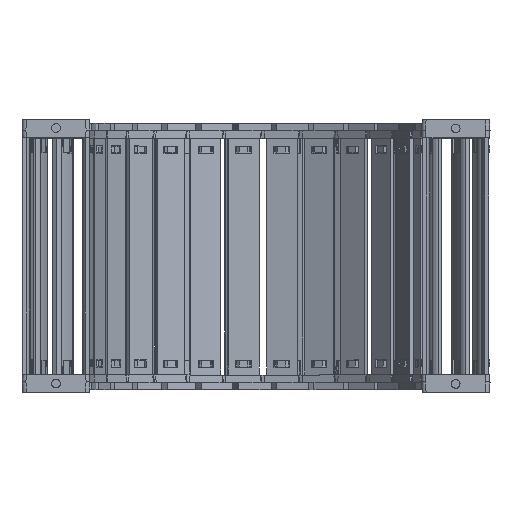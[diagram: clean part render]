
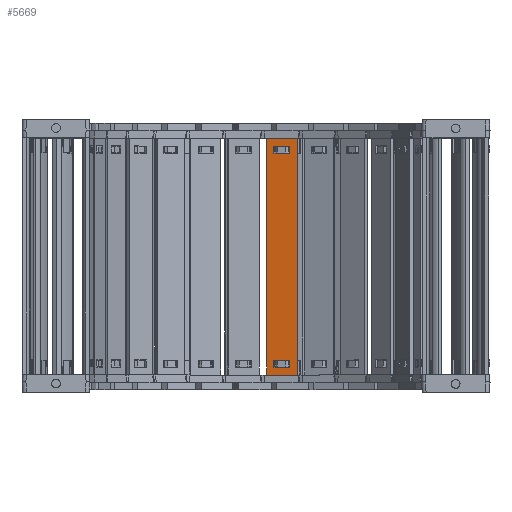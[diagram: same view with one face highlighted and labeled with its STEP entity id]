
A CAD part, top view. The second image highlights one B-rep face of the part: STEP entity #5669.
In plain terms, the highlighted planar face has unit normal (-0.182, 0, 0.983) as drawn and (0, 1, 0) by its records, which use the part's own axes.
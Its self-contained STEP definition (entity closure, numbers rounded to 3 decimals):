
#5089=DIRECTION('',(0.,0.,1.));
#5090=VECTOR('',#5089,15.8);
#5091=CARTESIAN_POINT('',(105.74,1.5,-7.9));
#5092=LINE('',#5091,#5090);
#5093=DIRECTION('',(-1.,0.,0.));
#5094=VECTOR('',#5093,120.5);
#5095=CARTESIAN_POINT('',(105.74,1.5,7.9));
#5096=LINE('',#5095,#5094);
#5097=DIRECTION('',(0.,0.,-1.));
#5098=VECTOR('',#5097,15.8);
#5099=CARTESIAN_POINT('',(-14.76,1.5,7.9));
#5100=LINE('',#5099,#5098);
#5101=DIRECTION('',(1.,0.,0.));
#5102=VECTOR('',#5101,3.648);
#5103=CARTESIAN_POINT('',(98.122,1.5,4.075));
#5104=LINE('',#5103,#5102);
#5105=DIRECTION('',(0.,0.,-1.));
#5106=VECTOR('',#5105,8.15);
#5107=CARTESIAN_POINT('',(101.77,1.5,4.075));
#5108=LINE('',#5107,#5106);
#5109=DIRECTION('',(-1.,0.,0.));
#5110=VECTOR('',#5109,3.648);
#5111=CARTESIAN_POINT('',(101.77,1.5,-4.075));
#5112=LINE('',#5111,#5110);
#5113=DIRECTION('',(0.,0.,-1.));
#5114=VECTOR('',#5113,8.15);
#5115=CARTESIAN_POINT('',(-7.142,1.5,4.075));
#5116=LINE('',#5115,#5114);
#5117=DIRECTION('',(-1.,0.,0.));
#5118=VECTOR('',#5117,3.648);
#5119=CARTESIAN_POINT('',(-7.142,1.5,-4.075));
#5120=LINE('',#5119,#5118);
#5121=DIRECTION('',(0.,0.,1.));
#5122=VECTOR('',#5121,8.15);
#5123=CARTESIAN_POINT('',(-10.79,1.5,-4.075));
#5124=LINE('',#5123,#5122);
#5125=DIRECTION('',(1.,0.,0.));
#5126=VECTOR('',#5125,3.648);
#5127=CARTESIAN_POINT('',(-10.79,1.5,4.075));
#5128=LINE('',#5127,#5126);
#5133=DIRECTION('',(-1.,0.,0.));
#5134=VECTOR('',#5133,120.5);
#5135=CARTESIAN_POINT('',(105.74,1.5,-7.9));
#5136=LINE('',#5135,#5134);
#5254=DIRECTION('',(0.,0.,-1.));
#5255=VECTOR('',#5254,8.15);
#5256=CARTESIAN_POINT('',(98.122,1.5,4.075));
#5257=LINE('',#5256,#5255);
#5439=CARTESIAN_POINT('',(101.77,1.5,4.075));
#5440=VERTEX_POINT('',#5439);
#5441=CARTESIAN_POINT('',(98.122,1.5,4.075));
#5442=VERTEX_POINT('',#5441);
#5483=CARTESIAN_POINT('',(98.122,1.5,-4.075));
#5484=VERTEX_POINT('',#5483);
#5485=CARTESIAN_POINT('',(101.77,1.5,-4.075));
#5486=VERTEX_POINT('',#5485);
#5487=CARTESIAN_POINT('',(105.74,1.5,7.9));
#5489=VERTEX_POINT('',#5487);
#5491=CARTESIAN_POINT('',(105.74,1.5,-7.9));
#5492=VERTEX_POINT('',#5491);
#5515=CARTESIAN_POINT('',(-7.142,1.5,4.075));
#5516=CARTESIAN_POINT('',(-7.142,1.5,-4.075));
#5517=VERTEX_POINT('',#5515);
#5518=VERTEX_POINT('',#5516);
#5519=CARTESIAN_POINT('',(-10.79,1.5,-4.075));
#5520=VERTEX_POINT('',#5519);
#5521=CARTESIAN_POINT('',(-10.79,1.5,4.075));
#5522=VERTEX_POINT('',#5521);
#5523=CARTESIAN_POINT('',(-14.76,1.5,7.9));
#5524=VERTEX_POINT('',#5523);
#5527=CARTESIAN_POINT('',(-14.76,1.5,-7.9));
#5528=VERTEX_POINT('',#5527);
#5638=CARTESIAN_POINT('',(137.48,1.5,10.061));
#5639=DIRECTION('',(0.,-1.,0.));
#5640=DIRECTION('',(0.,0.,-1.));
#5641=AXIS2_PLACEMENT_3D('',#5638,#5639,#5640);
#5642=PLANE('',#5641);
#5643=ORIENTED_EDGE('',*,*,#5577,.T.);
#5644=ORIENTED_EDGE('',*,*,#5603,.T.);
#5645=ORIENTED_EDGE('',*,*,#5616,.T.);
#5647=ORIENTED_EDGE('',*,*,#5646,.F.);
#5648=EDGE_LOOP('',(#5643,#5644,#5645,#5647));
#5649=FACE_OUTER_BOUND('',#5648,.F.);
#5651=ORIENTED_EDGE('',*,*,#5650,.F.);
#5652=ORIENTED_EDGE('',*,*,#5540,.T.);
#5654=ORIENTED_EDGE('',*,*,#5653,.T.);
#5656=ORIENTED_EDGE('',*,*,#5655,.T.);
#5657=EDGE_LOOP('',(#5651,#5652,#5654,#5656));
#5658=FACE_BOUND('',#5657,.F.);
#5660=ORIENTED_EDGE('',*,*,#5659,.T.);
#5662=ORIENTED_EDGE('',*,*,#5661,.T.);
#5664=ORIENTED_EDGE('',*,*,#5663,.T.);
#5666=ORIENTED_EDGE('',*,*,#5665,.T.);
#5667=EDGE_LOOP('',(#5660,#5662,#5664,#5666));
#5668=FACE_BOUND('',#5667,.F.);
#5669=ADVANCED_FACE('',(#5649,#5658,#5668),#5642,.F.);
#5540=EDGE_CURVE('',#5442,#5440,#5104,.T.);
#5577=EDGE_CURVE('',#5492,#5489,#5092,.T.);
#5603=EDGE_CURVE('',#5489,#5524,#5096,.T.);
#5616=EDGE_CURVE('',#5524,#5528,#5100,.T.);
#5646=EDGE_CURVE('',#5492,#5528,#5136,.T.);
#5650=EDGE_CURVE('',#5442,#5484,#5257,.T.);
#5653=EDGE_CURVE('',#5440,#5486,#5108,.T.);
#5655=EDGE_CURVE('',#5486,#5484,#5112,.T.);
#5659=EDGE_CURVE('',#5517,#5518,#5116,.T.);
#5661=EDGE_CURVE('',#5518,#5520,#5120,.T.);
#5663=EDGE_CURVE('',#5520,#5522,#5124,.T.);
#5665=EDGE_CURVE('',#5522,#5517,#5128,.T.);
